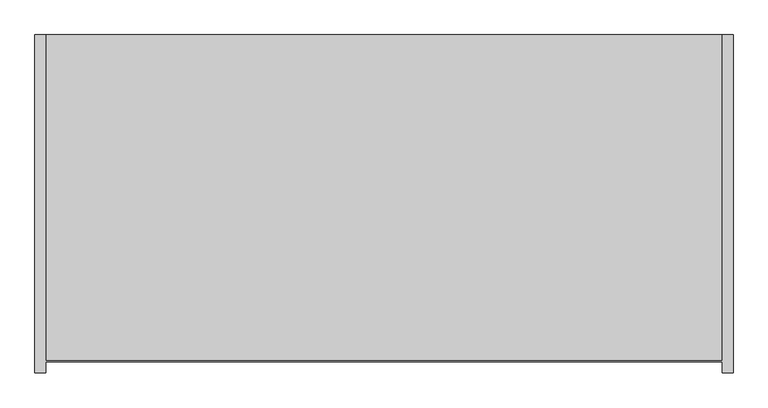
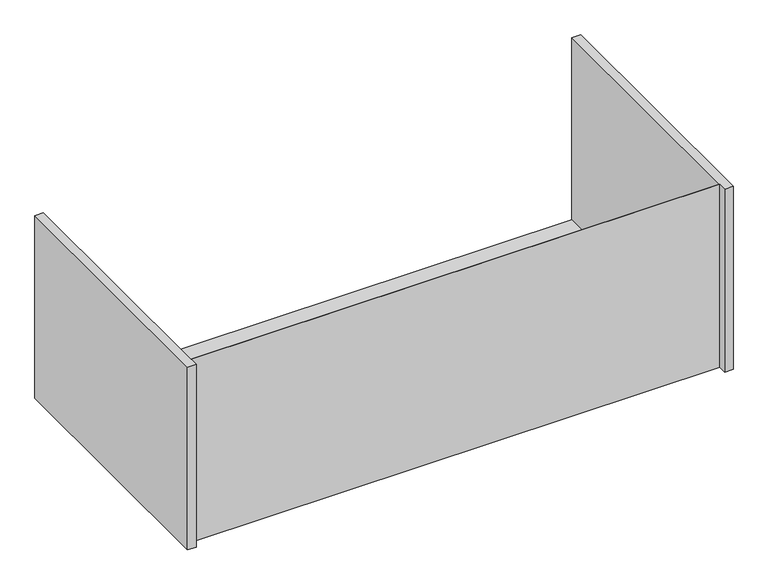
"""IFC4 building model written with IfcOpenShell, lengths in millimetres: furniture geometry."""

from ifc_helpers import new_model, si_unit, origin, place, context, project, spatial, faceted_brep, source, transform, mapped, element, save


def furniture_ea4a19f1(model_context):
    return source(origin(), model_context, "Body", "Brep", [
        faceted_brep([(590.55, -401.6375, 882.65), (-590.55, -401.6375, 882.65), (-590.55, 168.275, 882.65), (-609.6, 168.275, 882.65), (-609.6, -422.275, 882.65), (-590.55, -422.275, 882.65), (-590.55, -403.225, 882.65), (590.55, -403.225, 882.65), (590.55, -422.275, 882.65), (609.6, -422.275, 882.65), (609.6, 168.275, 882.65), (590.55, 168.275, 882.65), (-590.55, -403.225, 450.85), (590.55, -403.225, 450.85), (-590.55, -422.275, 450.85), (-609.6, -422.275, 450.85), (-609.6, 168.275, 450.85), (609.6, 168.275, 450.85), (609.6, -422.275, 450.85), (590.55, -422.275, 450.85), (-590.55, 168.275, 452.4375), (590.55, 168.275, 452.4375), (-590.55, -401.6375, 452.4375), (590.55, -401.6375, 452.4375)], [[[0, 1, 2, 3, 4, 5, 6, 7, 8, 9, 10, 11]], [[7, 6, 12, 13]], [[13, 12, 14, 15, 16, 17, 18, 19]], [[17, 16, 3, 2, 20, 21, 11, 10]], [[21, 20, 22, 23]], [[1, 0, 23, 22]], [[0, 11, 21, 23]], [[19, 8, 7, 13]], [[9, 8, 19, 18]], [[10, 9, 18, 17]], [[2, 1, 22, 20]], [[5, 14, 12, 6]], [[4, 3, 16, 15]], [[5, 4, 15, 14]]]),
    ])


if __name__ == "__main__":
    model = new_model("IFC4")
    model_context = context("Model", 3, world=origin())
    ifc_project = project(units=[si_unit("LENGTHUNIT", "METRE", prefix="MILLI")], contexts=[model_context])
    site = spatial("IfcSite", under=ifc_project)
    building = spatial("IfcBuilding", under=site)
    placement = place(None, origin())
    furniture_shape = furniture_ea4a19f1(model_context)
    element("IfcFurniture", 1, ObjectType="HermanMiller_CoStruc_C2512_SinkModule : 18\"H x 24\"D x 48\"W", at=placement, inside=building, context=model_context, shape_type="MappedRepresentation", body=[
        mapped(furniture_shape, transform((0.0, 0.0, 0.0), x_axis=(1.0, 0.0, 0.0), y_axis=(0.0, 1.0, 0.0), z_axis=(0.0, 0.0, 1.0))),
    ])
    save(model, "model.ifc")
